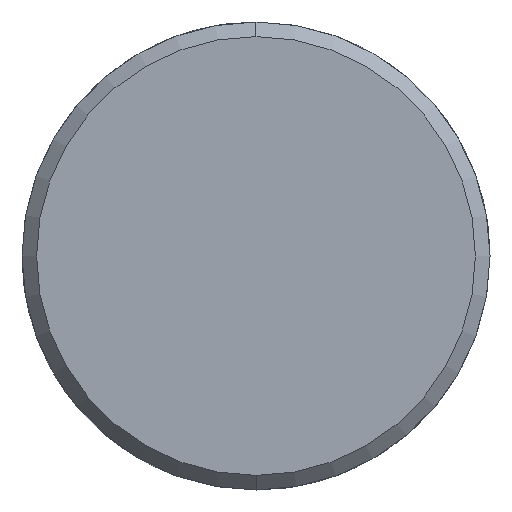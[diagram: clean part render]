
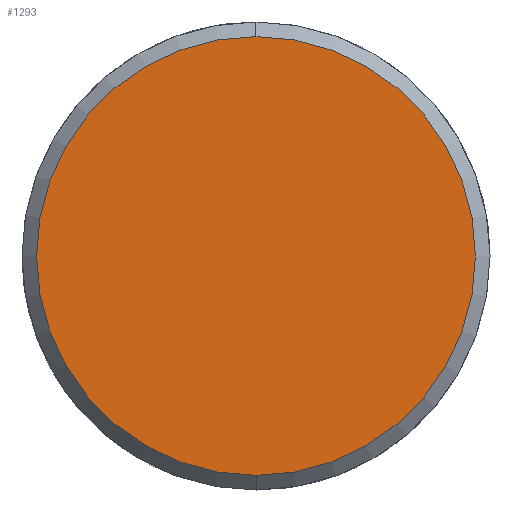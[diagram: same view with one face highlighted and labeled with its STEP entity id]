
A CAD part, left-side view. The second image highlights one B-rep face of the part: STEP entity #1293.
In plain terms, the highlighted planar face has unit normal (-1, 0, 0).
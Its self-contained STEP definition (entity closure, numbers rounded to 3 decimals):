
#1225=CARTESIAN_POINT('Vertex',(-6.,0.,-15.)) ;
#1228=CARTESIAN_POINT('Axis2P3D Location',(-6.,0.,0.)) ;
#1232=CARTESIAN_POINT('Vertex',(-6.,15.,0.)) ;
#1235=CARTESIAN_POINT('Axis2P3D Location',(-6.,0.,0.)) ;
#1239=CARTESIAN_POINT('Vertex',(-6.,0.,15.)) ;
#1261=CARTESIAN_POINT('Axis2P3D Location',(-6.,0.,0.)) ;
#1265=CARTESIAN_POINT('Vertex',(-6.,-15.,0.)) ;
#1268=CARTESIAN_POINT('Axis2P3D Location',(-6.,0.,0.)) ;
#1282=CARTESIAN_POINT('Axis2P3D Location',(-6.,0.,0.)) ;
#1229=DIRECTION('Axis2P3D Direction',(1.,0.,-0.)) ;
#1236=DIRECTION('Axis2P3D Direction',(1.,0.,-0.)) ;
#1262=DIRECTION('Axis2P3D Direction',(1.,0.,-0.)) ;
#1269=DIRECTION('Axis2P3D Direction',(1.,0.,-0.)) ;
#1283=DIRECTION('Axis2P3D Direction',(1.,0.,-0.)) ;
#1284=DIRECTION('Axis2P3D XDirection',(-0.,0.,-1.)) ;
#1230=AXIS2_PLACEMENT_3D('Circle Axis2P3D',#1228,#1229,$) ;
#1237=AXIS2_PLACEMENT_3D('Circle Axis2P3D',#1235,#1236,$) ;
#1263=AXIS2_PLACEMENT_3D('Circle Axis2P3D',#1261,#1262,$) ;
#1270=AXIS2_PLACEMENT_3D('Circle Axis2P3D',#1268,#1269,$) ;
#1285=AXIS2_PLACEMENT_3D('Plane Axis2P3D',#1282,#1283,#1284) ;
#1288=ORIENTED_EDGE('',*,*,#1234,.F.) ;
#1289=ORIENTED_EDGE('',*,*,#1272,.F.) ;
#1290=ORIENTED_EDGE('',*,*,#1267,.F.) ;
#1291=ORIENTED_EDGE('',*,*,#1241,.F.) ;
#1293=ADVANCED_FACE('351-20X56X160',(#1292),#1286,.F.) ;
#1231=CIRCLE('generated circle',#1230,15.) ;
#1238=CIRCLE('generated circle',#1237,15.) ;
#1264=CIRCLE('generated circle',#1263,15.) ;
#1271=CIRCLE('generated circle',#1270,15.) ;
#1234=EDGE_CURVE('',#1226,#1233,#1231,.T.) ;
#1241=EDGE_CURVE('',#1233,#1240,#1238,.T.) ;
#1267=EDGE_CURVE('',#1240,#1266,#1264,.T.) ;
#1272=EDGE_CURVE('',#1266,#1226,#1271,.T.) ;
#1287=EDGE_LOOP('',(#1288,#1289,#1290,#1291)) ;
#1292=FACE_OUTER_BOUND('',#1287,.T.) ;
#1286=PLANE('Plane',#1285) ;
#1226=VERTEX_POINT('',#1225) ;
#1233=VERTEX_POINT('',#1232) ;
#1240=VERTEX_POINT('',#1239) ;
#1266=VERTEX_POINT('',#1265) ;
